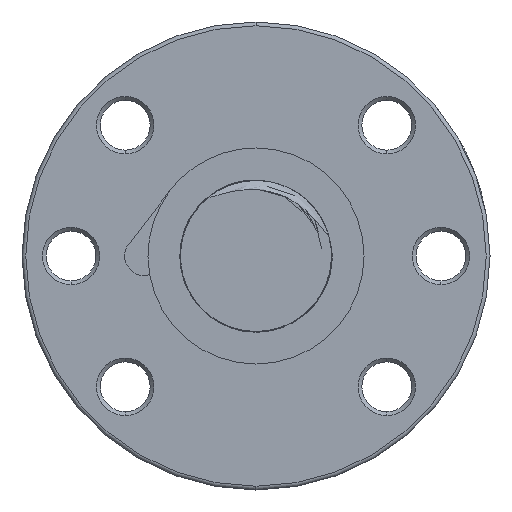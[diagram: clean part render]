
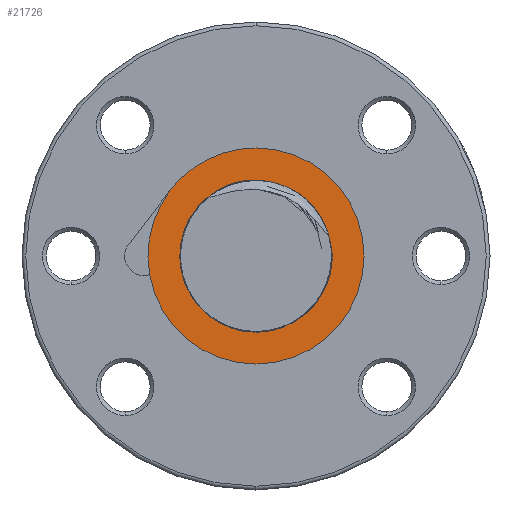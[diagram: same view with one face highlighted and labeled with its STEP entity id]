
A CAD part, left-side view. The second image highlights one B-rep face of the part: STEP entity #21726.
In plain terms, the highlighted planar face has unit normal (-1, 0, 0).
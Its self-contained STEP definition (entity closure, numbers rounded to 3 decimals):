
#6136 = CARTESIAN_POINT ( 'NONE',  ( -96.8, 0., 14.313 ) ) ;
#6137 = CARTESIAN_POINT ( 'NONE',  ( -96.8, 0., -14.313 ) ) ;
#6138 = DIRECTION ( 'NONE',  ( 0., 0., 1. ) ) ;
#6139 = DIRECTION ( 'NONE',  ( -1., 0., 0. ) ) ;
#6140 = AXIS2_PLACEMENT_3D ( 'NONE', #6150, #6139, #6138 ) ;
#6141 = CIRCLE ( 'NONE', #6140, 14.313 ) ;
#6150 = CARTESIAN_POINT ( 'NONE',  ( -96.8, 0., 0. ) ) ;
#6176 = CARTESIAN_POINT ( 'NONE',  ( -96.8, -10.015, 1.304 ) ) ;
#6180 = CARTESIAN_POINT ( 'NONE',  ( -96.8, 11.329, 8.746 ) ) ;
#6181 = DIRECTION ( 'NONE',  ( 0., 0., 1. ) ) ;
#6182 = DIRECTION ( 'NONE',  ( -1., 0., 0. ) ) ;
#6183 = CARTESIAN_POINT ( 'NONE',  ( -96.8, 0., 0. ) ) ;
#6184 = AXIS2_PLACEMENT_3D ( 'NONE', #6183, #6182, #6181 ) ;
#6189 = CIRCLE ( 'NONE', #6184, 14.313 ) ;
#6315 = DIRECTION ( 'NONE',  ( 0., 0., 1. ) ) ;
#6316 = DIRECTION ( 'NONE',  ( -1., 0., 0. ) ) ;
#6317 = CARTESIAN_POINT ( 'NONE',  ( -96.8, 0., 0. ) ) ;
#6318 = AXIS2_PLACEMENT_3D ( 'NONE', #6317, #6316, #6315 ) ;
#6319 = CIRCLE ( 'NONE', #6318, 10.1 ) ;
#6368 = CARTESIAN_POINT ( 'NONE',  ( -96.8, 0., -10.1 ) ) ;
#6453 = CARTESIAN_POINT ( 'NONE',  ( -96.8, 14.095, -2.486 ) ) ;
#6454 = DIRECTION ( 'NONE',  ( 0., 0., 1. ) ) ;
#6455 = DIRECTION ( 'NONE',  ( -1., 0., 0. ) ) ;
#6456 = CARTESIAN_POINT ( 'NONE',  ( -96.8, 0., 0. ) ) ;
#6457 = AXIS2_PLACEMENT_3D ( 'NONE', #6456, #6455, #6454 ) ;
#6465 = CIRCLE ( 'NONE', #6457, 14.313 ) ;
#6481 = DIRECTION ( 'NONE',  ( 0., 0., 1. ) ) ;
#6482 = DIRECTION ( 'NONE',  ( -1., 0., 0. ) ) ;
#6483 = CARTESIAN_POINT ( 'NONE',  ( -96.8, 0., 10.1 ) ) ;
#6484 = AXIS2_PLACEMENT_3D ( 'NONE', #6483, #6482, #6481 ) ;
#6485 = FACE_OUTER_BOUND ( 'NONE', #21985, .T. ) ;
#6486 = FACE_BOUND ( 'NONE', #20803, .T. ) ;
#6491 = PLANE ( 'NONE',  #6484 ) ;
#6623 = CARTESIAN_POINT ( 'NONE',  ( -96.8, 0., 0. ) ) ;
#6625 = CARTESIAN_POINT ( 'NONE',  ( -96.8, 5.379, 8.548 ) ) ;
#6638 = CIRCLE ( 'NONE', #6657, 10.1 ) ;
#6655 = DIRECTION ( 'NONE',  ( 0., 0., 1. ) ) ;
#6656 = DIRECTION ( 'NONE',  ( -1., 0., 0. ) ) ;
#6657 = AXIS2_PLACEMENT_3D ( 'NONE', #6623, #6656, #6655 ) ;
#16570 = DIRECTION ( 'NONE',  ( 0., 0., 1. ) ) ;
#16571 = DIRECTION ( 'NONE',  ( -1., 0., 0. ) ) ;
#16572 = AXIS2_PLACEMENT_3D ( 'NONE', #16613, #16571, #16570 ) ;
#16573 = CIRCLE ( 'NONE', #16572, 14.313 ) ;
#16574 = CARTESIAN_POINT ( 'NONE',  ( -96.8, 5.379, 8.548 ) ) ;
#16575 = CARTESIAN_POINT ( 'NONE',  ( -96.8, 5.287, 8.517 ) ) ;
#16576 = CARTESIAN_POINT ( 'NONE',  ( -96.8, 5.189, 8.508 ) ) ;
#16577 = CARTESIAN_POINT ( 'NONE',  ( -96.8, 4.996, 8.503 ) ) ;
#16578 = CARTESIAN_POINT ( 'NONE',  ( -96.8, 4.899, 8.507 ) ) ;
#16579 = CARTESIAN_POINT ( 'NONE',  ( -96.8, 4.609, 8.531 ) ) ;
#16580 = CARTESIAN_POINT ( 'NONE',  ( -96.8, 4.417, 8.558 ) ) ;
#16581 = CARTESIAN_POINT ( 'NONE',  ( -96.8, 3.841, 8.645 ) ) ;
#16582 = CARTESIAN_POINT ( 'NONE',  ( -96.8, 3.459, 8.709 ) ) ;
#16583 = CARTESIAN_POINT ( 'NONE',  ( -96.8, 2.69, 8.814 ) ) ;
#16584 = CARTESIAN_POINT ( 'NONE',  ( -96.8, 2.303, 8.857 ) ) ;
#16585 = CARTESIAN_POINT ( 'NONE',  ( -96.8, 1.531, 8.909 ) ) ;
#16586 = CARTESIAN_POINT ( 'NONE',  ( -96.8, 1.145, 8.919 ) ) ;
#16587 = CARTESIAN_POINT ( 'NONE',  ( -96.8, 0.376, 8.903 ) ) ;
#16588 = CARTESIAN_POINT ( 'NONE',  ( -96.8, -0.008, 8.876 ) ) ;
#16589 = CARTESIAN_POINT ( 'NONE',  ( -96.8, -0.773, 8.784 ) ) ;
#16590 = CARTESIAN_POINT ( 'NONE',  ( -96.8, -1.157, 8.718 ) ) ;
#16591 = CARTESIAN_POINT ( 'NONE',  ( -96.8, -2.291, 8.459 ) ) ;
#16592 = CARTESIAN_POINT ( 'NONE',  ( -96.8, -3.016, 8.21 ) ) ;
#16593 = CARTESIAN_POINT ( 'NONE',  ( -96.8, -4.057, 7.72 ) ) ;
#16594 = CARTESIAN_POINT ( 'NONE',  ( -96.8, -4.396, 7.537 ) ) ;
#16595 = CARTESIAN_POINT ( 'NONE',  ( -96.8, -5.058, 7.132 ) ) ;
#16596 = CARTESIAN_POINT ( 'NONE',  ( -96.8, -5.378, 6.912 ) ) ;
#16597 = CARTESIAN_POINT ( 'NONE',  ( -96.8, -6.292, 6.208 ) ) ;
#16598 = CARTESIAN_POINT ( 'NONE',  ( -96.8, -6.846, 5.678 ) ) ;
#16599 = CARTESIAN_POINT ( 'NONE',  ( -96.8, -7.603, 4.802 ) ) ;
#16600 = CARTESIAN_POINT ( 'NONE',  ( -96.8, -7.843, 4.495 ) ) ;
#16601 = CARTESIAN_POINT ( 'NONE',  ( -96.8, -8.296, 3.866 ) ) ;
#16602 = CARTESIAN_POINT ( 'NONE',  ( -96.8, -8.508, 3.542 ) ) ;
#16603 = CARTESIAN_POINT ( 'NONE',  ( -96.8, -8.916, 2.884 ) ) ;
#16604 = CARTESIAN_POINT ( 'NONE',  ( -96.8, -9.11, 2.549 ) ) ;
#16605 = CARTESIAN_POINT ( 'NONE',  ( -96.8, -9.41, 2.051 ) ) ;
#16606 = CARTESIAN_POINT ( 'NONE',  ( -96.8, -9.511, 1.886 ) ) ;
#16607 = CARTESIAN_POINT ( 'NONE',  ( -96.8, -9.677, 1.649 ) ) ;
#16608 = CARTESIAN_POINT ( 'NONE',  ( -96.8, -9.735, 1.571 ) ) ;
#16609 = CARTESIAN_POINT ( 'NONE',  ( -96.8, -9.862, 1.426 ) ) ;
#16610 = CARTESIAN_POINT ( 'NONE',  ( -96.8, -9.932, 1.355 ) ) ;
#16611 = CARTESIAN_POINT ( 'NONE',  ( -96.8, -10.015, 1.304 ) ) ;
#16612 = B_SPLINE_CURVE_WITH_KNOTS ( 'NONE', 3,
 ( #16611, #16610, #16609, #16608, #16607, #16606, #16605, #16604, #16603, #16602, #16601, #16600, #16599, #16598, #16597, #16596, #16595, #16594, #16593, #16592, #16591, #16590, #16589, #16588, #16587, #16586, #16585, #16584, #16583, #16582, #16581, #16580, #16579, #16578, #16577, #16576, #16575, #16574 ),
 .UNSPECIFIED., .F., .F.,
 ( 4, 2, 2, 2, 2, 2, 2, 2, 2, 2, 2, 2, 2, 2, 2, 2, 2, 2, 4 ),
 ( 0.025, 0.025, 0.025, 0.026, 0.027, 0.028, 0.029, 0.032, 0.033, 0.034, 0.036, 0.038, 0.039, 0.04, 0.041, 0.042, 0.043, 0.043, 0.043 ),
 .UNSPECIFIED. ) ;
#16613 = CARTESIAN_POINT ( 'NONE',  ( -96.8, 0., 0. ) ) ;
#20803 = EDGE_LOOP ( 'NONE', ( #21981, #21982, #21984 ) ) ;
#21537 = VERTEX_POINT ( 'NONE', #6176 ) ;
#21538 = VERTEX_POINT ( 'NONE', #6368 ) ;
#21559 = EDGE_CURVE ( 'NONE', #21538, #21537, #6319, .T. ) ;
#21619 = EDGE_CURVE ( 'NONE', #21641, #21620, #6189, .T. ) ;
#21620 = VERTEX_POINT ( 'NONE', #6180 ) ;
#21639 = EDGE_CURVE ( 'NONE', #21640, #21641, #6141, .T. ) ;
#21640 = VERTEX_POINT ( 'NONE', #6137 ) ;
#21641 = VERTEX_POINT ( 'NONE', #6136 ) ;
#21726 = ADVANCED_FACE ( 'NONE', ( #6486, #6485 ), #6491, .T. ) ;
#21740 = EDGE_CURVE ( 'NONE', #21741, #21640, #6465, .T. ) ;
#21741 = VERTEX_POINT ( 'NONE', #6453 ) ;
#21796 = VERTEX_POINT ( 'NONE', #6625 ) ;
#21798 = EDGE_CURVE ( 'NONE', #21796, #21538, #6638, .T. ) ;
#21981 = ORIENTED_EDGE ( 'NONE', *, *, #21798, .F. ) ;
#21982 = ORIENTED_EDGE ( 'NONE', *, *, #21983, .F. ) ;
#21983 = EDGE_CURVE ( 'NONE', #21537, #21796, #16612, .T. ) ;
#21984 = ORIENTED_EDGE ( 'NONE', *, *, #21559, .F. ) ;
#21985 = EDGE_LOOP ( 'NONE', ( #21986, #21988, #21989, #21990 ) ) ;
#21986 = ORIENTED_EDGE ( 'NONE', *, *, #21987, .T. ) ;
#21987 = EDGE_CURVE ( 'NONE', #21620, #21741, #16573, .T. ) ;
#21988 = ORIENTED_EDGE ( 'NONE', *, *, #21740, .T. ) ;
#21989 = ORIENTED_EDGE ( 'NONE', *, *, #21639, .T. ) ;
#21990 = ORIENTED_EDGE ( 'NONE', *, *, #21619, .T. ) ;
